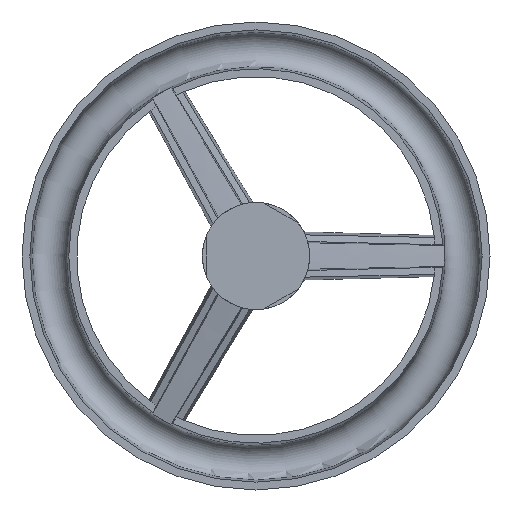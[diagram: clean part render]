
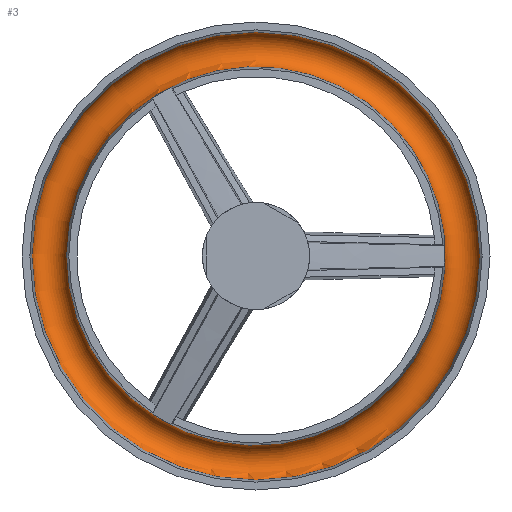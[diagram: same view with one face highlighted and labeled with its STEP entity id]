
A CAD part, front view. The second image highlights one B-rep face of the part: STEP entity #3.
In plain terms, the highlighted toroidal (fillet/blend) face has major radius 106 mm and minor radius 8.987 mm.
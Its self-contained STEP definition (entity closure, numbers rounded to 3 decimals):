
#3 = ADVANCED_FACE ( 'NONE', ( #3802, #3747 ), #3840, .F. ) ;
#880 = ORIENTED_EDGE ( 'NONE', *, *, #5642, .F. ) ;
#882 = ORIENTED_EDGE ( 'NONE', *, *, #6582, .T. ) ;
#2311 = DIRECTION ( 'NONE',  ( -0.866, 0., 0.5 ) ) ;
#2313 = CARTESIAN_POINT ( 'NONE',  ( -69.688, 29.635, 24.73 ) ) ;
#2332 = DIRECTION ( 'NONE',  ( 0., -1., 0. ) ) ;
#3747 = FACE_OUTER_BOUND ( 'NONE', #7246, .T. ) ;
#3802 = FACE_OUTER_BOUND ( 'NONE', #7245, .T. ) ;
#3840 = TOROIDAL_SURFACE ( 'NONE', #5700, 106., 8.987 ) ;
#4075 = CIRCLE ( 'NONE', #6658, 114.953 ) ;
#4097 = VERTEX_POINT ( 'NONE', #5000 ) ;
#4111 = VERTEX_POINT ( 'NONE', #5005 ) ;
#4276 = CARTESIAN_POINT ( 'NONE',  ( -69.688, 30.418, 24.73 ) ) ;
#4277 = DIRECTION ( 'NONE',  ( 0., -1., 0. ) ) ;
#4278 = DIRECTION ( 'NONE',  ( -0.866, 0., 0.5 ) ) ;
#5000 = CARTESIAN_POINT ( 'NONE',  ( -153.734, 30.418, 73.253 ) ) ;
#5005 = CARTESIAN_POINT ( 'NONE',  ( -169.24, 30.418, 82.206 ) ) ;
#5358 = CIRCLE ( 'NONE', #5705, 97.047 ) ;
#5642 = EDGE_CURVE ( 'NONE', #4097, #4097, #5358, .T. ) ;
#5700 = AXIS2_PLACEMENT_3D ( 'NONE', #2313, #2332, #2311 ) ;
#5705 = AXIS2_PLACEMENT_3D ( 'NONE', #6180, #6179, #6178 ) ;
#6178 = DIRECTION ( 'NONE',  ( -0.866, 0., 0.5 ) ) ;
#6179 = DIRECTION ( 'NONE',  ( 0., -1., 0. ) ) ;
#6180 = CARTESIAN_POINT ( 'NONE',  ( -69.688, 30.418, 24.73 ) ) ;
#6582 = EDGE_CURVE ( 'NONE', #4111, #4111, #4075, .T. ) ;
#6658 = AXIS2_PLACEMENT_3D ( 'NONE', #4276, #4277, #4278 ) ;
#7245 = EDGE_LOOP ( 'NONE', ( #882 ) ) ;
#7246 = EDGE_LOOP ( 'NONE', ( #880 ) ) ;
